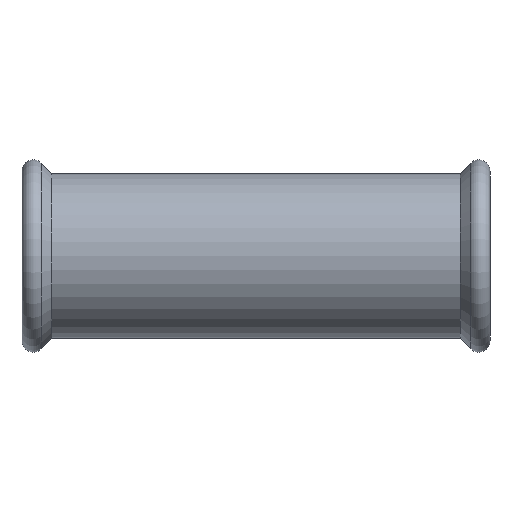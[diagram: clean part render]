
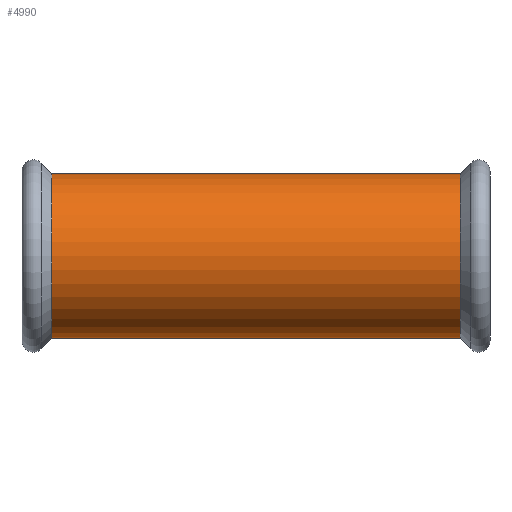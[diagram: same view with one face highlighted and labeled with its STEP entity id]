
A CAD part, top view. The second image highlights one B-rep face of the part: STEP entity #4990.
In plain terms, the highlighted cylindrical face has radius 40.45 mm (diameter 80.9 mm), a partial arc.
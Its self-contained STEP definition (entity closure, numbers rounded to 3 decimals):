
#2220=CARTESIAN_POINT('',(-149.922,40.45,0.));
#2230=VERTEX_POINT('',#2220);
#2410=CARTESIAN_POINT('',(-149.922,-40.45,0.
));
#2420=VERTEX_POINT('',#2410);
#2450=CARTESIAN_POINT('',(-149.922,0.,0.));
#2460=DIRECTION('',(-1.,0.,0.));
#2470=DIRECTION('',(0.,-1.,0.));
#2480=AXIS2_PLACEMENT_3D('',#2450,#2460,#2470);
#2490=CIRCLE('',#2480,40.45);
#2980=CARTESIAN_POINT('',(50.922,-40.45,0.));
#2990=VERTEX_POINT('',#2980);
#3070=CARTESIAN_POINT('',(50.922,40.45,0.));
#3080=VERTEX_POINT('',#3070);
#3110=CARTESIAN_POINT('',(50.922,0.,0.));
#3120=DIRECTION('',(1.,0.,0.));
#3130=DIRECTION('',(0.,1.,0.));
#3140=AXIS2_PLACEMENT_3D('',#3110,#3120,#3130);
#3150=CIRCLE('',#3140,40.45);
#4450=CARTESIAN_POINT('',(-135.969,0.,0.));
#4460=DIRECTION('',(1.,0.,0.));
#4470=DIRECTION('',(0.,-1.,0.));
#4480=AXIS2_PLACEMENT_3D('',#4450,#4460,#4470);
#4490=CYLINDRICAL_SURFACE('',#4480,40.45);
#4500=CARTESIAN_POINT('',(-135.969,40.45,0.)
);
#4510=DIRECTION('',(1.,0.,0.));
#4520=VECTOR('',#4510,1.);
#4530=LINE('',#4500,#4520);
#4540=EDGE_CURVE('',#2230,#3080,#4530,.T.);
#4570=CARTESIAN_POINT('',(-135.969,-40.45,0.));
#4580=DIRECTION('',(1.,0.,0.));
#4590=VECTOR('',#4580,1.);
#4600=LINE('',#4570,#4590);
#4610=EDGE_CURVE('',#2420,#2990,#4600,.T.);
#4910=EDGE_CURVE('',#2420,#2230,#2490,.T.);
#4920=ORIENTED_EDGE('',*,*,#4910,.F.);
#4930=ORIENTED_EDGE('',*,*,#4540,.F.);
#4940=EDGE_CURVE('',#3080,#2990,#3150,.T.);
#4950=ORIENTED_EDGE('',*,*,#4940,.F.);
#4960=ORIENTED_EDGE('',*,*,#4610,.T.);
#4970=EDGE_LOOP('',(#4960,#4950,#4930,#4920));
#4980=FACE_OUTER_BOUND('',#4970,.T.);
#4990=ADVANCED_FACE('',(#4980),#4490,.T.);
